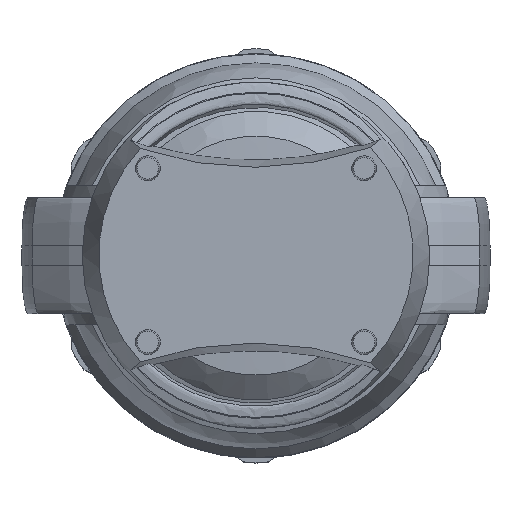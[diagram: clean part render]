
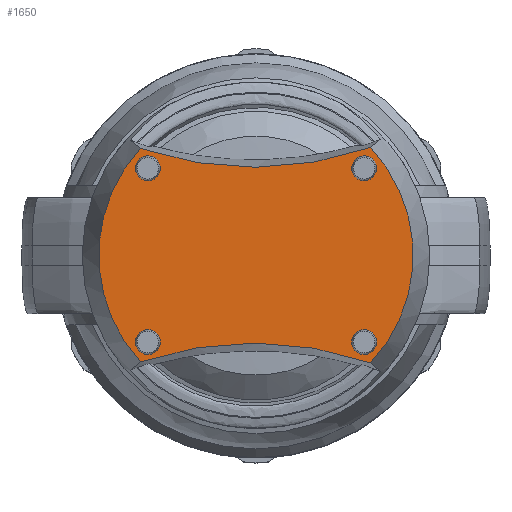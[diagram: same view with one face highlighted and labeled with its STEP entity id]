
A CAD part, top view. The second image highlights one B-rep face of the part: STEP entity #1650.
In plain terms, the highlighted planar face has unit normal (0, 0, 1).
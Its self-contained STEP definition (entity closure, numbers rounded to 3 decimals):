
#63=CARTESIAN_POINT('',(-2.032,-454.924,0.));
#64=DIRECTION('',(0.,0.,1.));
#65=DIRECTION('',(0.331,0.943,0.));
#66=AXIS2_PLACEMENT_3D('',#63,#64,#65);
#68=CARTESIAN_POINT('',(-2.032,454.924,0.));
#69=DIRECTION('',(0.,0.,1.));
#70=DIRECTION('',(-0.323,-0.946,0.));
#71=AXIS2_PLACEMENT_3D('',#68,#69,#70);
#73=CARTESIAN_POINT('',(112.,90.,0.));
#74=DIRECTION('',(0.,0.,1.));
#75=DIRECTION('',(0.,-1.,0.));
#76=AXIS2_PLACEMENT_3D('',#73,#74,#75);
#78=CARTESIAN_POINT('',(112.,90.,0.));
#79=DIRECTION('',(0.,0.,1.));
#80=DIRECTION('',(0.,1.,0.));
#81=AXIS2_PLACEMENT_3D('',#78,#79,#80);
#83=CARTESIAN_POINT('',(112.,-90.,0.));
#84=DIRECTION('',(0.,0.,1.));
#85=DIRECTION('',(0.,-1.,0.));
#86=AXIS2_PLACEMENT_3D('',#83,#84,#85);
#88=CARTESIAN_POINT('',(112.,-90.,0.));
#89=DIRECTION('',(0.,0.,1.));
#90=DIRECTION('',(0.,1.,0.));
#91=AXIS2_PLACEMENT_3D('',#88,#89,#90);
#93=CARTESIAN_POINT('',(-112.,90.,0.));
#94=DIRECTION('',(0.,0.,1.));
#95=DIRECTION('',(0.,-1.,0.));
#96=AXIS2_PLACEMENT_3D('',#93,#94,#95);
#98=CARTESIAN_POINT('',(-112.,90.,0.));
#99=DIRECTION('',(0.,0.,1.));
#100=DIRECTION('',(0.,1.,0.));
#101=AXIS2_PLACEMENT_3D('',#98,#99,#100);
#103=CARTESIAN_POINT('',(-112.,-90.,0.));
#104=DIRECTION('',(0.,0.,1.));
#105=DIRECTION('',(0.,-1.,0.));
#106=AXIS2_PLACEMENT_3D('',#103,#104,#105);
#108=CARTESIAN_POINT('',(-112.,-90.,0.));
#109=DIRECTION('',(0.,0.,1.));
#110=DIRECTION('',(0.,1.,0.));
#111=AXIS2_PLACEMENT_3D('',#108,#109,#110);
#441=CARTESIAN_POINT('',(0.,0.,0.));
#442=DIRECTION('',(0.,0.,1.));
#443=DIRECTION('',(-0.734,0.679,0.));
#444=AXIS2_PLACEMENT_3D('',#441,#442,#443);
#451=CARTESIAN_POINT('',(0.,0.,0.));
#452=DIRECTION('',(0.,0.,1.));
#453=DIRECTION('',(0.728,-0.685,0.));
#454=AXIS2_PLACEMENT_3D('',#451,#452,#453);
#1491=CARTESIAN_POINT('',(118.594,-111.572,0.));
#1492=CARTESIAN_POINT('',(-119.585,-110.508,0.));
#1493=VERTEX_POINT('',#1491);
#1494=VERTEX_POINT('',#1492);
#1495=CARTESIAN_POINT('',(-119.585,110.508,
0.));
#1496=CARTESIAN_POINT('',(118.594,111.572,
0.));
#1497=VERTEX_POINT('',#1495);
#1498=VERTEX_POINT('',#1496);
#1583=CARTESIAN_POINT('',(112.,77.115,0.));
#1584=CARTESIAN_POINT('',(112.,102.885,0.));
#1585=VERTEX_POINT('',#1583);
#1586=VERTEX_POINT('',#1584);
#1599=CARTESIAN_POINT('',(112.,-102.885,0.));
#1600=CARTESIAN_POINT('',(112.,-77.115,0.));
#1601=VERTEX_POINT('',#1599);
#1602=VERTEX_POINT('',#1600);
#1603=CARTESIAN_POINT('',(-112.,77.115,0.));
#1604=CARTESIAN_POINT('',(-112.,102.885,0.));
#1605=VERTEX_POINT('',#1603);
#1606=VERTEX_POINT('',#1604);
#1607=CARTESIAN_POINT('',(-112.,-102.885,0.));
#1608=CARTESIAN_POINT('',(-112.,-77.115,0.));
#1609=VERTEX_POINT('',#1607);
#1610=VERTEX_POINT('',#1608);
#1611=CARTESIAN_POINT('',(0.,0.,0.));
#1612=DIRECTION('',(0.,0.,-1.));
#1613=DIRECTION('',(1.,0.,0.));
#1614=AXIS2_PLACEMENT_3D('',#1611,#1612,#1613);
#1615=PLANE('',#1614);
#1617=ORIENTED_EDGE('',*,*,#1616,.T.);
#1619=ORIENTED_EDGE('',*,*,#1618,.F.);
#1621=ORIENTED_EDGE('',*,*,#1620,.T.);
#1623=ORIENTED_EDGE('',*,*,#1622,.F.);
#1624=EDGE_LOOP('',(#1617,#1619,#1621,#1623));
#1625=FACE_OUTER_BOUND('',#1624,.F.);
#1627=ORIENTED_EDGE('',*,*,#1626,.T.);
#1629=ORIENTED_EDGE('',*,*,#1628,.T.);
#1630=EDGE_LOOP('',(#1627,#1629));
#1631=FACE_BOUND('',#1630,.F.);
#1633=ORIENTED_EDGE('',*,*,#1632,.T.);
#1635=ORIENTED_EDGE('',*,*,#1634,.T.);
#1636=EDGE_LOOP('',(#1633,#1635));
#1637=FACE_BOUND('',#1636,.F.);
#1639=ORIENTED_EDGE('',*,*,#1638,.T.);
#1641=ORIENTED_EDGE('',*,*,#1640,.T.);
#1642=EDGE_LOOP('',(#1639,#1641));
#1643=FACE_BOUND('',#1642,.F.);
#1645=ORIENTED_EDGE('',*,*,#1644,.T.);
#1647=ORIENTED_EDGE('',*,*,#1646,.T.);
#1648=EDGE_LOOP('',(#1645,#1647));
#1649=FACE_BOUND('',#1648,.F.);
#67=CIRCLE('',#66,363.925);
#72=CIRCLE('',#71,363.925);
#77=CIRCLE('',#76,12.885);
#82=CIRCLE('',#81,12.885);
#87=CIRCLE('',#86,12.885);
#92=CIRCLE('',#91,12.885);
#97=CIRCLE('',#96,12.885);
#102=CIRCLE('',#101,12.885);
#107=CIRCLE('',#106,12.885);
#112=CIRCLE('',#111,12.885);
#445=CIRCLE('',#444,162.827);
#455=CIRCLE('',#454,162.827);
#1616=EDGE_CURVE('',#1493,#1494,#67,.T.);
#1618=EDGE_CURVE('',#1497,#1494,#445,.T.);
#1620=EDGE_CURVE('',#1497,#1498,#72,.T.);
#1622=EDGE_CURVE('',#1493,#1498,#455,.T.);
#1626=EDGE_CURVE('',#1585,#1586,#77,.T.);
#1628=EDGE_CURVE('',#1586,#1585,#82,.T.);
#1632=EDGE_CURVE('',#1601,#1602,#87,.T.);
#1634=EDGE_CURVE('',#1602,#1601,#92,.T.);
#1638=EDGE_CURVE('',#1605,#1606,#97,.T.);
#1640=EDGE_CURVE('',#1606,#1605,#102,.T.);
#1644=EDGE_CURVE('',#1609,#1610,#107,.T.);
#1646=EDGE_CURVE('',#1610,#1609,#112,.T.);
#1650=ADVANCED_FACE('',(#1625,#1631,#1637,#1643,#1649),#1615,.F.);
